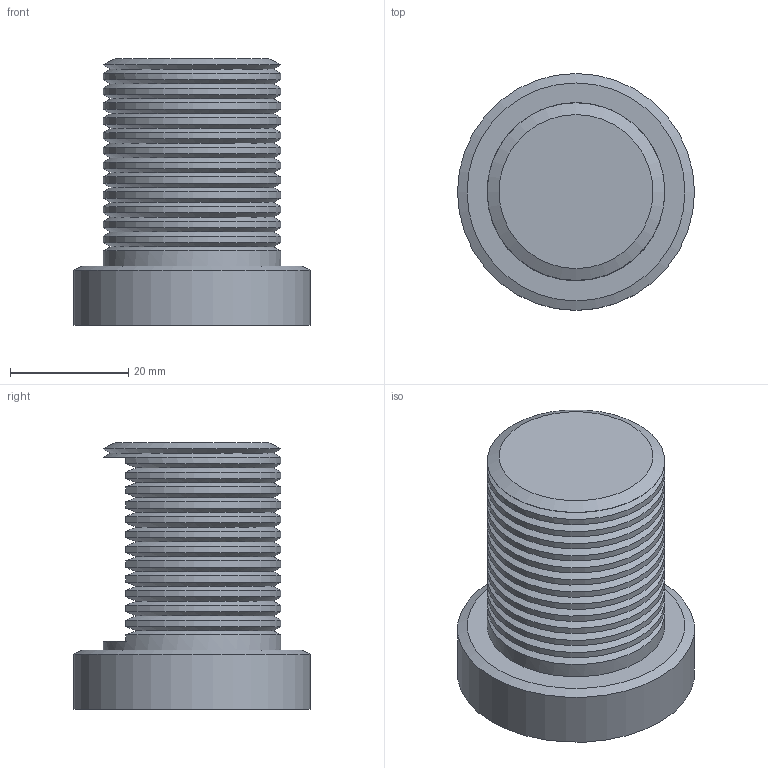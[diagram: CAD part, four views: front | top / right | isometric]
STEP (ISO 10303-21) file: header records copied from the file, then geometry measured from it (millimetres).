
FILE_DESCRIPTION(('FreeCAD Model'),'2;1');
FILE_NAME('Open CASCADE Shape Model','2026-09-12T23:09:59',('FreeCAD'),( 'FreeCAD'),'Open CASCADE STEP processor 7.8','FreeCAD','Unknown');
FILE_SCHEMA(('AUTOMOTIVE_DESIGN { 1 0 10303 214 1 1 1 1 }'));
Products named in the file (1): Open CASCADE STEP translator 7.8 2
Bounding box: 40 x 40 x 45 mm (x, y, z)
Volume: 32224.2 mm3; surface area: 10458.2 mm2
Topology: 1 solids, 1 shells, 3800 faces, 11138 edges, 7419 vertices
Faces by surface type: plane 3680, cone 52, extrusion 52, cylinder 16
Full cylindrical faces by diameter (mm): 30 x3, 36.4 x1, 40 x1
Entity records: 123911 total; most frequent: CARTESIAN_POINT 22972, ORIENTED_EDGE 22276, DIRECTION 18713, EDGE_CURVE 11138, VECTOR 10949, LINE 10897, VERTEX_POINT 7419, AXIS2_PLACEMENT_3D 3882
